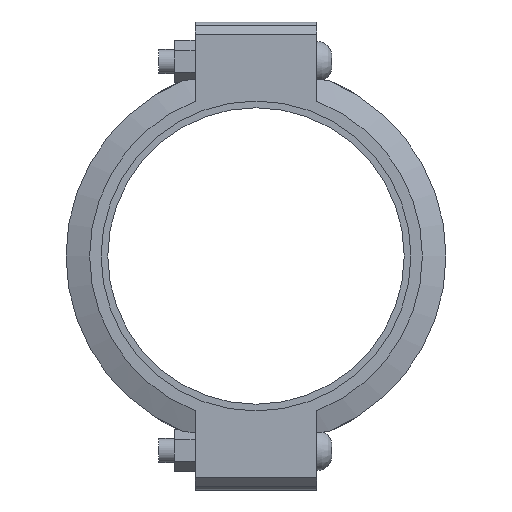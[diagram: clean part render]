
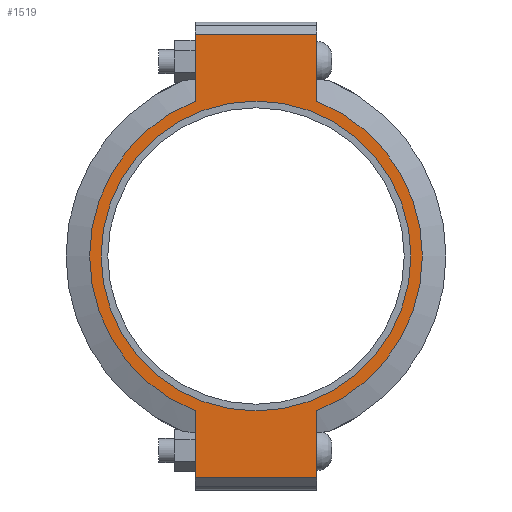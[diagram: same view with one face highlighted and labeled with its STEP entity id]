
A CAD part, left-side view. The second image highlights one B-rep face of the part: STEP entity #1519.
In plain terms, the highlighted planar face has unit normal (-1, 0, 0) as drawn and (0, 0, 1) by its records, which use the part's own axes.
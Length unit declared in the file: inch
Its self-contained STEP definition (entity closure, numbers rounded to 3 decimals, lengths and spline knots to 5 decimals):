
#146=LINE('',#2607,#233);
#157=LINE('',#2658,#244);
#163=LINE('',#2684,#250);
#165=LINE('',#2687,#252);
#166=LINE('',#2692,#253);
#167=LINE('',#2693,#254);
#233=VECTOR('',#2113,0.3937);
#244=VECTOR('',#2144,0.3937);
#250=VECTOR('',#2162,0.3937);
#252=VECTOR('',#2166,0.3937);
#253=VECTOR('',#2171,0.3937);
#254=VECTOR('',#2172,0.3937);
#312=FACE_BOUND('',#471,.T.);
#372=FACE_OUTER_BOUND('',#470,.T.);
#470=EDGE_LOOP('',(#1208,#1209,#1210,#1211,#1212,#1213,#1214,#1215));
#471=EDGE_LOOP('',(#1216));
#576=CIRCLE('',#1782,6.84375);
#577=CIRCLE('',#1783,6.84375);
#578=CIRCLE('',#1784,6.375);
#685=VERTEX_POINT('',#2604);
#686=VERTEX_POINT('',#2606);
#703=VERTEX_POINT('',#2653);
#704=VERTEX_POINT('',#2657);
#711=VERTEX_POINT('',#2679);
#712=VERTEX_POINT('',#2683);
#713=VERTEX_POINT('',#2689);
#714=VERTEX_POINT('',#2691);
#715=VERTEX_POINT('',#2695);
#855=EDGE_CURVE('',#686,#685,#146,.T.);
#876=EDGE_CURVE('',#704,#703,#157,.T.);
#887=EDGE_CURVE('',#712,#711,#163,.T.);
#889=EDGE_CURVE('',#712,#685,#165,.T.);
#890=EDGE_CURVE('',#711,#713,#576,.T.);
#891=EDGE_CURVE('',#713,#714,#166,.T.);
#892=EDGE_CURVE('',#704,#714,#167,.T.);
#893=EDGE_CURVE('',#703,#686,#577,.T.);
#894=EDGE_CURVE('',#715,#715,#578,.T.);
#1208=ORIENTED_EDGE('',*,*,#889,.F.);
#1209=ORIENTED_EDGE('',*,*,#887,.T.);
#1210=ORIENTED_EDGE('',*,*,#890,.T.);
#1211=ORIENTED_EDGE('',*,*,#891,.T.);
#1212=ORIENTED_EDGE('',*,*,#892,.F.);
#1213=ORIENTED_EDGE('',*,*,#876,.T.);
#1214=ORIENTED_EDGE('',*,*,#893,.T.);
#1215=ORIENTED_EDGE('',*,*,#855,.T.);
#1216=ORIENTED_EDGE('',*,*,#894,.T.);
#1371=PLANE('',#1781);
#1519=ADVANCED_FACE('',(#372,#312),#1371,.T.);
#1781=AXIS2_PLACEMENT_3D('',#2688,#2167,#2168);
#1782=AXIS2_PLACEMENT_3D('',#2690,#2169,#2170);
#1783=AXIS2_PLACEMENT_3D('',#2694,#2173,#2174);
#1784=AXIS2_PLACEMENT_3D('',#2696,#2175,#2176);
#2113=DIRECTION('',(1.,0.,0.));
#2144=DIRECTION('',(1.,0.,0.));
#2162=DIRECTION('',(-1.,0.,0.));
#2166=DIRECTION('',(0.,-1.,0.));
#2167=DIRECTION('center_axis',(0.,0.,1.));
#2168=DIRECTION('ref_axis',(-1.,0.,0.));
#2169=DIRECTION('center_axis',(0.,0.,1.));
#2170=DIRECTION('ref_axis',(1.,0.,0.));
#2171=DIRECTION('',(-1.,0.,0.));
#2172=DIRECTION('',(0.,1.,0.));
#2173=DIRECTION('center_axis',(0.,0.,1.));
#2174=DIRECTION('ref_axis',(1.,0.,0.));
#2175=DIRECTION('center_axis',(0.,0.,-1.));
#2176=DIRECTION('ref_axis',(1.,0.,0.));
#2604=CARTESIAN_POINT('',(9.125,-2.5,1.315));
#2606=CARTESIAN_POINT('',(6.37079,-2.5,1.315));
#2607=CARTESIAN_POINT('',(-9.625,-2.5,1.315));
#2653=CARTESIAN_POINT('',(-6.37079,-2.5,1.315));
#2657=CARTESIAN_POINT('',(-9.125,-2.5,1.315));
#2658=CARTESIAN_POINT('',(-9.625,-2.5,1.315));
#2679=CARTESIAN_POINT('',(6.37079,2.5,1.315));
#2683=CARTESIAN_POINT('',(9.125,2.5,1.315));
#2684=CARTESIAN_POINT('',(9.625,2.5,1.315));
#2687=CARTESIAN_POINT('',(9.125,-1.25,1.315));
#2688=CARTESIAN_POINT('Origin',(0.,0.,
1.315));
#2689=CARTESIAN_POINT('',(-6.37079,2.5,1.315));
#2690=CARTESIAN_POINT('Origin',(0.,0.,1.315));
#2691=CARTESIAN_POINT('',(-9.125,2.5,1.315));
#2692=CARTESIAN_POINT('',(9.625,2.5,1.315));
#2693=CARTESIAN_POINT('',(-9.125,1.25,1.315));
#2694=CARTESIAN_POINT('Origin',(0.,0.,1.315));
#2695=CARTESIAN_POINT('',(-6.375,0.,1.315));
#2696=CARTESIAN_POINT('Origin',(0.,0.,1.315));
